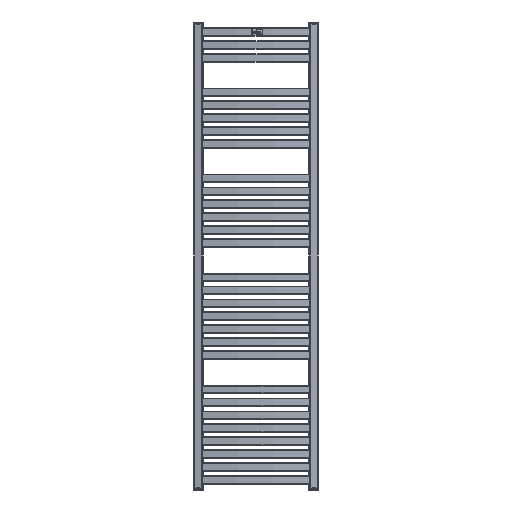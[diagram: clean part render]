
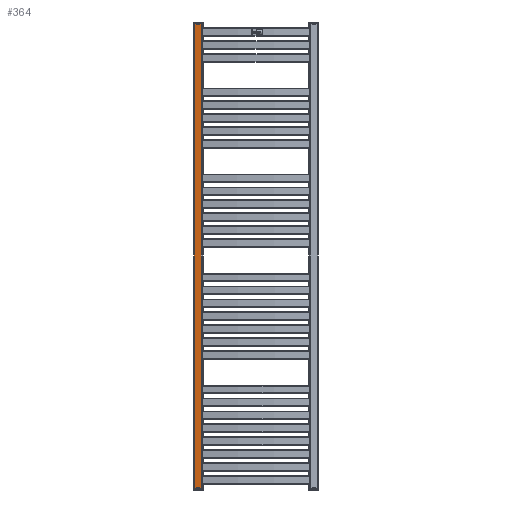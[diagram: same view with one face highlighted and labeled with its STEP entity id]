
A CAD part, front view. The second image highlights one B-rep face of the part: STEP entity #364.
In plain terms, the highlighted planar face has unit normal (-0.157, -0.988, 0) as drawn and (1, 0, 0) by its records, which use the part's own axes.
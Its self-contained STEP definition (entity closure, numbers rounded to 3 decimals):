
#364 = ADVANCED_FACE( '', ( #1027 ), #1028, .T. );
#1027 = FACE_OUTER_BOUND( '', #2085, .T. );
#1028 = PLANE( '', #2086 );
#2085 = EDGE_LOOP( '', ( #3185, #3186, #3187, #3188 ) );
#2086 = AXIS2_PLACEMENT_3D( '', #3189, #3190, #3191 );
#3185 = ORIENTED_EDGE( '', *, *, #6065, .T. );
#3186 = ORIENTED_EDGE( '', *, *, #6066, .T. );
#3187 = ORIENTED_EDGE( '', *, *, #6067, .F. );
#3188 = ORIENTED_EDGE( '', *, *, #6068, .T. );
#3189 = CARTESIAN_POINT( '', ( 15., 1626., -15. ) );
#3190 = DIRECTION( '', ( 1., 0., 0. ) );
#3191 = DIRECTION( '', ( 0., 0., -1. ) );
#6065 = EDGE_CURVE( '', #7231, #7232, #7233, .T. );
#6066 = EDGE_CURVE( '', #7232, #7234, #7235, .T. );
#6067 = EDGE_CURVE( '', #7236, #7234, #7237, .T. );
#6068 = EDGE_CURVE( '', #7236, #7231, #7238, .F. );
#7231 = VERTEX_POINT( '', #8967 );
#7232 = VERTEX_POINT( '', #8968 );
#7233 = LINE( '', #8969, #8970 );
#7234 = VERTEX_POINT( '', #8971 );
#7235 = LINE( '', #8972, #8973 );
#7236 = VERTEX_POINT( '', #8974 );
#7237 = LINE( '', #8975, #8976 );
#7238 = LINE( '', #8977, #8978 );
#8967 = CARTESIAN_POINT( '', ( 15., 1626., -12. ) );
#8968 = CARTESIAN_POINT( '', ( 15., 1626., 12. ) );
#8969 = CARTESIAN_POINT( '', ( 15., 1626., -15. ) );
#8970 = VECTOR( '', #11210, 1000. );
#8971 = CARTESIAN_POINT( '', ( 15., 0., 12. ) );
#8972 = CARTESIAN_POINT( '', ( 15., 1626., 12. ) );
#8973 = VECTOR( '', #11211, 1000. );
#8974 = CARTESIAN_POINT( '', ( 15., 0., -12. ) );
#8975 = CARTESIAN_POINT( '', ( 15., 0., -15. ) );
#8976 = VECTOR( '', #11212, 1000. );
#8977 = CARTESIAN_POINT( '', ( 15., 1626., -12. ) );
#8978 = VECTOR( '', #11213, 1000. );
#11210 = DIRECTION( '', ( 0., 0., 1. ) );
#11211 = DIRECTION( '', ( 0., -1., 0. ) );
#11212 = DIRECTION( '', ( 0., 0., 1. ) );
#11213 = DIRECTION( '', ( 0., -1., 0. ) );
